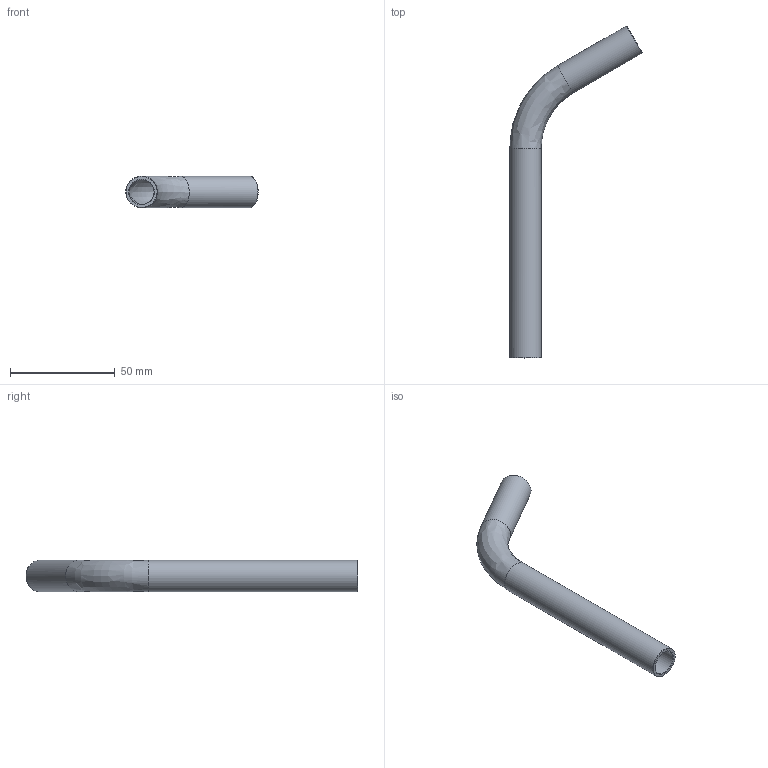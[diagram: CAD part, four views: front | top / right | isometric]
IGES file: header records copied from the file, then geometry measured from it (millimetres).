
Global section: file name: C72AC; native system: Autodesk Inventor 2023; preprocessor: unknown; author: lvalentini; date: 20230921.121016; units: millimetre
Bounding box: 63.15 x 158.4 x 15 mm (x, y, z)
Volume: 11381.1 mm3; surface area: 15223.4 mm2
Topology: 1 solids, 1 shells, 12 faces, 26 edges, 16 vertices
Faces by surface type: bspline 12
